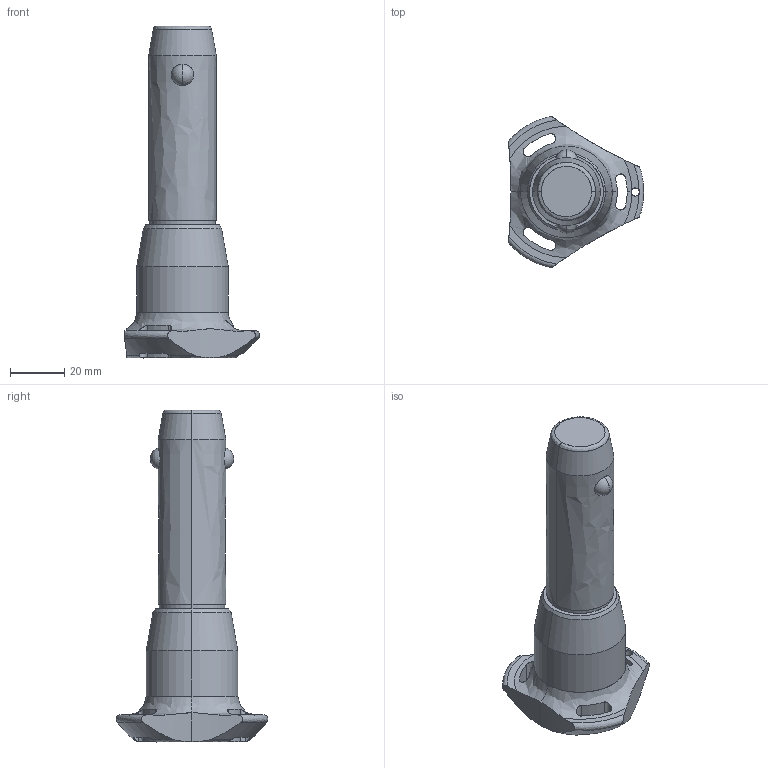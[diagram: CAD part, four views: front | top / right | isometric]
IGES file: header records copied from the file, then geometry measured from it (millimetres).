
Start section: SolidWorks IGES file using analytic representation for surfaces
Global section: file name: C:\Users\ianosborn\Desktop\QR1734_v2\QR1734_v2_20251113_IGES\QR1734.M25-050-S.igs; native system: SolidWorks 2019; preprocessor: SolidWorks 2019; author: IanOsborn; date: 251112.144420; units: millimetre
Bounding box: 50.04 x 56.02 x 122.7 mm (x, y, z)
Surface area: 15376.2 mm2 (no closed solid volume)
Topology: 0 solids, 0 shells, 65 faces, 1310 edges, 1306 vertices
Faces by surface type: revolution 50, bspline 15
